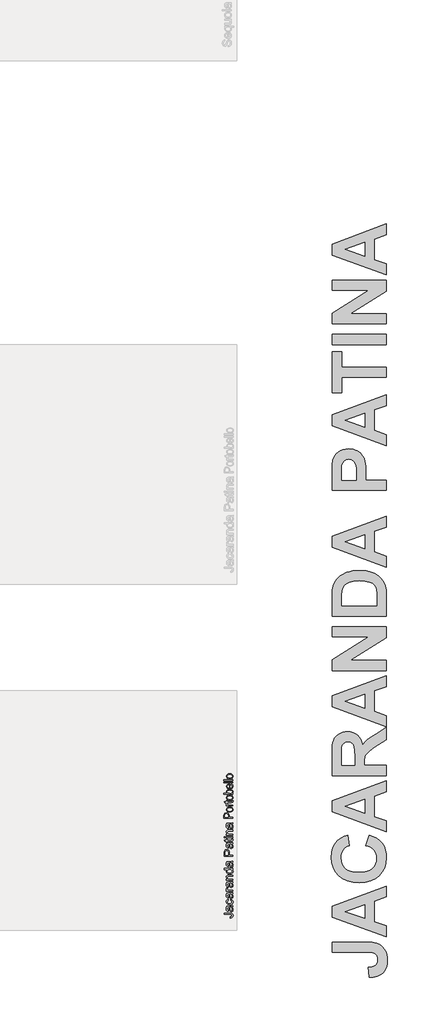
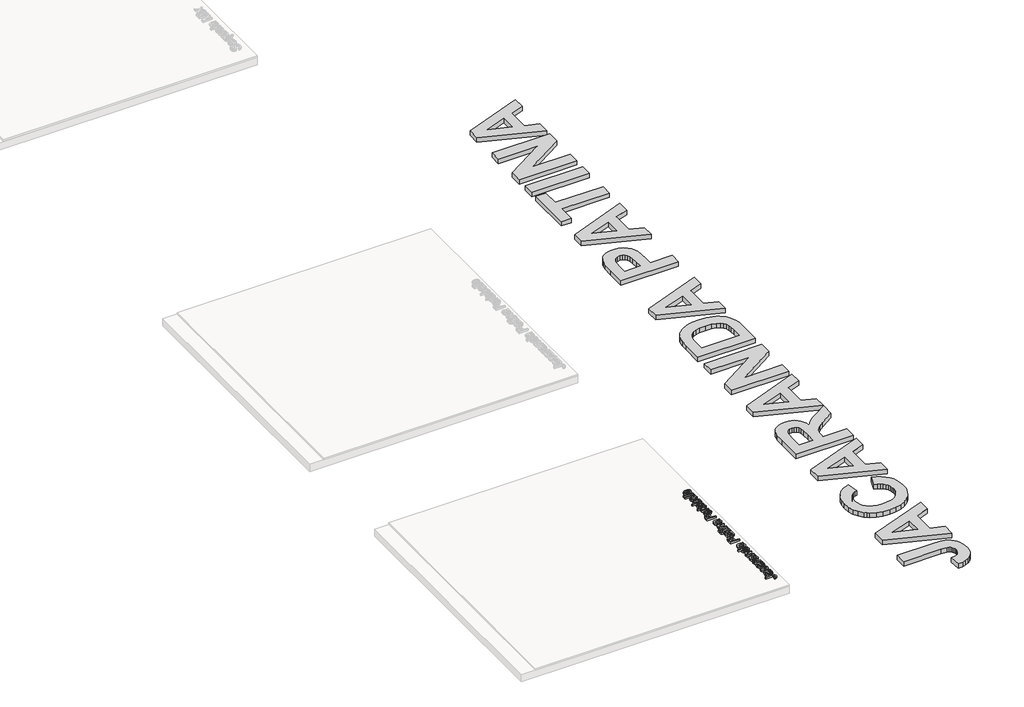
# One storey, part 7 of 10: 3 proxies.
"""IFC4 building model written with IfcOpenShell, lengths in millimetres."""

import ifcopenshell
import ifcopenshell.guid

model = None  # the IFC model being written
_history = None  # IfcOwnerHistory: only IFC2X3 demands one
_inside = {}  # id of a spatial element -> (the spatial element, [elements in it])
_under = {}  # id of a project, library or spatial element -> (it, [spatial elements below it])
_declared = {}  # id of a project -> (the project, [libraries it declares])
_typed = {}  # id of a type object -> (the type object, [elements of that type])
_made_of = {}  # id of a material, layer set ... -> (it, [elements and type objects made of it])


def new_model(schema):
    """Start an empty IFC model of exactly this schema.

    Asked for "IFC4X3", IfcOpenShell would pick the latest addendum, in which some entities
    have other attributes; the version numbers below select the first issue.
    IFC2X3 requires an IfcOwnerHistory on every rooted entity: one is made here for all.
    """
    global model, _history
    if schema == "IFC4X3":
        model = ifcopenshell.file(schema_version=(4, 3, 0, 0))
    else:
        model = ifcopenshell.file(schema=schema)
    _inside.clear()
    _under.clear()
    _declared.clear()
    _typed.clear()
    _made_of.clear()
    _history = None
    if model.schema == "IFC2X3":
        org = make("IfcOrganization", Name="unknown")
        user = make(
            "IfcPersonAndOrganization",
            ThePerson=make("IfcPerson", FamilyName="unknown"),
            TheOrganization=org,
        )
        app = make(
            "IfcApplication",
            ApplicationDeveloper=org,
            Version="unknown",
            ApplicationFullName="unknown",
            ApplicationIdentifier="unknown",
        )
        _history = make(
            "IfcOwnerHistory",
            OwningUser=user,
            OwningApplication=app,
            ChangeAction="ADDED",
            CreationDate=0,
        )
    return model


def make(cls, **values):
    """One entity of the class cls with the attributes given. An attribute that is None is left unset."""
    return model.create_entity(
        cls, **{name: value for name, value in values.items() if value is not None}
    )


def rooted(cls, **values):
    """An entity with a GlobalId (a new one), such as an element, a storey or a relation."""
    return make(cls, GlobalId=ifcopenshell.guid.new(), OwnerHistory=_history, **values)


def si_unit(unit_type, name, prefix=None):
    """IfcSIUnit, for example si_unit("LENGTHUNIT", "METRE", prefix="MILLI")."""
    return make("IfcSIUnit", UnitType=unit_type, Prefix=prefix, Name=name)


def assignment(units):
    """IfcUnitAssignment: the units of a project."""
    return None if units is None else make("IfcUnitAssignment", Units=units)


def point(xyz):
    """IfcCartesianPoint."""
    return None if xyz is None else make("IfcCartesianPoint", Coordinates=xyz)


def direction(xyz):
    """IfcDirection."""
    return None if xyz is None else make("IfcDirection", DirectionRatios=xyz)


def frame(location, z_axis=None, x_axis=None):
    """IfcAxis2Placement3D, a coordinate frame: its origin and axes. An axis left out is left unset."""
    return make(
        "IfcAxis2Placement3D",
        Location=point(location),
        Axis=direction(z_axis),
        RefDirection=direction(x_axis),
    )


def origin():
    """The frame at (0, 0, 0) with its axes left unset."""
    return frame((0.0, 0.0, 0.0))


def origin_with_axes():
    """The frame at (0, 0, 0) with the z axis (0, 0, 1) and the x axis (1, 0, 0) written out."""
    return frame((0.0, 0.0, 0.0), z_axis=(0.0, 0.0, 1.0), x_axis=(1.0, 0.0, 0.0))


def place(relative_to, where):
    """IfcLocalPlacement: puts the frame where relative to a parent placement (None: the world)."""
    return make(
        "IfcLocalPlacement", PlacementRelTo=relative_to, RelativePlacement=where
    )


def context(
    kind, dimensions, precision=None, world=None, true_north=None, identifier=None
):
    """IfcGeometricRepresentationContext, for example the 3D "Model" context."""
    return make(
        "IfcGeometricRepresentationContext",
        ContextIdentifier=identifier,
        ContextType=kind,
        CoordinateSpaceDimension=dimensions,
        Precision=precision,
        WorldCoordinateSystem=world,
        TrueNorth=true_north,
    )


def project(units=None, contexts=None):
    """IfcProject with its units and contexts."""
    return rooted(
        "IfcProject",
        Name="project",
        RepresentationContexts=contexts,
        UnitsInContext=assignment(units),
    )


def spatial(cls, under=None, at=None, **own):
    """A site, building, storey or space (cls), placed at a placement, below another one or the project."""
    s = rooted(cls, ObjectPlacement=at, **own)
    if under is not None:
        _under.setdefault(under.id(), (under, []))[1].append(s)
    return s


def polyline(points):
    """IfcPolyline through the points."""
    return make("IfcPolyline", Points=[point(p) for p in points])


def outline(outer, holes=None, kind="AREA"):
    """IfcArbitraryClosedProfileDef: a profile drawn as a closed curve; with holes, ...WithVoids."""
    if holes is None:
        return make("IfcArbitraryClosedProfileDef", ProfileType=kind, OuterCurve=outer)
    return make(
        "IfcArbitraryProfileDefWithVoids",
        ProfileType=kind,
        OuterCurve=outer,
        InnerCurves=holes,
    )


def extrude(swept, where, along, depth):
    """IfcExtrudedAreaSolid: the profile swept, set in the frame where, extruded along a direction by depth."""
    return make(
        "IfcExtrudedAreaSolid",
        SweptArea=swept,
        Position=where,
        ExtrudedDirection=direction(along),
        Depth=depth,
    )


def shape(context_of_items, identifier, shape_type, items):
    """IfcShapeRepresentation: the items that make up one representation, for example the "Body"."""
    return make(
        "IfcShapeRepresentation",
        ContextOfItems=context_of_items,
        RepresentationIdentifier=identifier,
        RepresentationType=shape_type,
        Items=items,
    )


def made_of(thing, what):
    """Note that an element or type object is made of a material, layer set ...; save() writes the relation."""
    if what is not None:
        _made_of.setdefault(what.id(), (what, []))[1].append(thing)
    return thing


def element(
    cls,
    number,
    at=None,
    inside=None,
    cuts=None,
    type_object=None,
    material=None,
    context=None,
    identifier="Body",
    shape_type=None,
    held_by="IfcProductDefinitionShape",
    body=None,
    shapes=None,
    **own,
):
    """One element of the class cls, such as IfcWall. Its Tag is "e" and its number.

    at: its placement. inside: the storey or other place that contains it. cuts: it is an
    opening in that element (IfcRelVoidsElement). A single representation is given by context,
    identifier, shape_type and body (its items); several are given by shapes. held_by: the class
    of the entity that holds the representations. save() writes the other relations.
    """
    e = rooted(cls, Tag="e%d" % number, ObjectPlacement=at, **own)
    if body is not None:
        shapes = [shape(context, identifier, shape_type, body)]
    if shapes is not None:
        e.Representation = make(held_by, Representations=shapes)
    if inside is not None:
        _inside.setdefault(inside.id(), (inside, []))[1].append(e)
    if cuts is not None:
        rooted(
            "IfcRelVoidsElement", RelatingBuildingElement=cuts, RelatedOpeningElement=e
        )
    if type_object is not None:
        _typed.setdefault(type_object.id(), (type_object, []))[1].append(e)
    return made_of(e, material)


def aggregate(whole, parts):
    """IfcRelAggregates: a whole, such as a stair, and the parts it consists of."""
    return rooted("IfcRelAggregates", RelatingObject=whole, RelatedObjects=parts)


def save(model, path):
    """Write the relations noted so far, then the file.

    IfcRelAggregates (storeys below a building ...), IfcRelContainedInSpatialStructure (elements
    in a storey), IfcRelDefinesByType, IfcRelAssociatesMaterial and IfcRelDeclares: one each for
    every whole, place, type object, material and project.
    """
    for whole, parts in _under.values():
        aggregate(whole, parts)
    for where, things in _inside.values():
        rooted(
            "IfcRelContainedInSpatialStructure",
            RelatedElements=things,
            RelatingStructure=where,
        )
    for kind, things in _typed.values():
        rooted("IfcRelDefinesByType", RelatedObjects=things, RelatingType=kind)
    for what, things in _made_of.values():
        rooted("IfcRelAssociatesMaterial", RelatedObjects=things, RelatingMaterial=what)
    for by, libraries in _declared.values():
        rooted("IfcRelDeclares", RelatingContext=by, RelatedDefinitions=libraries)
    model.write(path)


model = new_model("IFC4")

# Units and contexts
model_context = context("Model", 3, world=origin())
ifc_project = project(units=[si_unit("LENGTHUNIT", "METRE", prefix="MILLI")], contexts=[model_context])

# Site, building, storey
site = spatial("IfcSite", under=ifc_project)
building = spatial("IfcBuilding", under=site)
storey = spatial("IfcBuildingStorey", under=building, Name="PORTOBELLO - SHOWROOM", Elevation=0.0)

# Proxies
placement = place(None, origin())
element("IfcBuildingElementProxy", 1, Name="10mm Arial", ObjectType="10mm Arial", at=placement, inside=storey, context=model_context, shape_type="SweptSolid", body=[
    extrude(outline(polyline([(154169.0196483, 712.2247218), (154167.4009675, 724.7817606), (154182.2388747, 729.0737172), (154186.2365257, 739.6687186), (154183.96792, 748.2648946), (154177.7875025, 753.2435643), (154165.3408284, 754.6047276), (154096.7676245, 754.6047276), (154096.7676245, 767.1617664), (154165.1200992, 767.1617664), (154184.6301076, 764.1328713), (154195.1637954, 754.5188885), (154198.7935644, 739.0801074), (154196.920432, 727.4734305), (154191.3010345, 718.9446996), (154181.984423, 713.7698262), (154169.0196483, 712.2247218)])), frame((0.0, 0.0, 17.0), z_axis=(0.0, 0.0, 1.0), x_axis=(1.0, 0.0, 0.0)), (0.0, 0.0, 1.0), 20.0),
    extrude(outline(polyline([(154187.8061555, 834.6558498), (154196.3164923, 822.4789558), (154198.7935644, 809.0267375), (154197.3036424, 798.5329036), (154192.8338761, 790.7920532), (154186.0464533, 786.0187844), (154177.6035615, 784.4276947), (154167.6707477, 786.8311904), (154160.4602606, 793.146498), (154156.3399822, 801.9388777), (154154.4515213, 812.8036593), (154150.1350392, 834.5822734), (154147.3391361, 834.6558498), (154138.0685098, 831.197759), (154134.4387408, 817.3163451), (154136.8544992, 804.6121535), (154145.4261497, 798.5543633), (154143.8565198, 785.9973246), (154131.5937867, 791.4297154), (154124.407825, 802.3680734), (154121.881702, 818.9350259), (154124.1135194, 834.1530777), (154129.7175885, 842.7492537), (154138.240188, 846.5997519), (154149.227597, 847.2128886), (154164.850319, 847.2128886), (154186.6657213, 847.8505507), (154197.2239346, 850.3521483), (154197.2239346, 837.7951095), (154187.8061555, 834.6558498)]), holes=[polyline([(154162.692078, 834.6558498), (154166.5425762, 814.3978146), (154168.5781899, 803.5943467), (154171.8891279, 798.7015161), (154176.7206447, 796.9847335), (154183.5141989, 800.7248671), (154186.2365257, 811.7000133), (154183.2321561, 824.4042049), (154175.9603553, 832.5957106), (154166.2482706, 834.5822734), (154162.692078, 834.6558498)])]), frame((0.0, 0.0, 17.0), z_axis=(0.0, 0.0, 1.0), x_axis=(1.0, 0.0, 0.0)), (0.0, 0.0, 1.0), 20.0),
    extrude(outline(polyline([(154170.5402272, 911.5677123), (154172.1098571, 924.124751), (154183.2781413, 920.6237407), (154191.7179674, 914.0447844), (154197.0246652, 905.00715), (154198.7935644, 894.1301057), (154196.3256894, 880.7729236), (154188.9220642, 870.3281406), (154176.9076514, 863.586703), (154160.6074134, 861.3395572), (154139.7485042, 865.1777927), (154126.3453369, 876.8764401), (154121.881702, 893.9584274), (154123.4145436, 904.5687573), (154128.0130686, 913.051503), (154135.4320221, 919.1368843), (154145.4261497, 922.5551212), (154146.9957795, 909.9980824), (154137.5902632, 904.1732842), (154134.4387408, 894.0565293), (154135.9899765, 885.9416656), (154140.6436837, 879.500665), (154148.6512485, 875.2976132), (154160.2640568, 873.8965959), (154172.033215, 875.2669564), (154180.0683709, 879.3780377), (154184.694487, 885.7025423), (154186.2365257, 893.7131728), (154182.3860275, 905.5467103), (154170.5402272, 911.5677123)])), frame((0.0, 0.0, 17.0), z_axis=(0.0, 0.0, 1.0), x_axis=(1.0, 0.0, 0.0)), (0.0, 0.0, 1.0), 20.0),
    extrude(outline(polyline([(154187.8061555, 982.2010553), (154196.3164923, 970.0241613), (154198.7935644, 956.571943), (154197.3036424, 946.0781091), (154192.8338761, 938.3372588), (154186.0464533, 933.5639899), (154177.6035615, 931.9729003), (154167.6707477, 934.376396), (154160.4602606, 940.6917035), (154156.3399822, 949.4840832), (154154.4515213, 960.3488648), (154150.1350392, 982.1274789), (154147.3391361, 982.2010553), (154138.0685098, 978.7429646), (154134.4387408, 964.8615506), (154136.8544992, 952.1573591), (154145.4261497, 946.0995689), (154143.8565198, 933.5425301), (154131.5937867, 938.9749209), (154124.407825, 949.9132789), (154121.881702, 966.4802314), (154124.1135194, 981.6982833), (154129.7175885, 990.2944592), (154138.240188, 994.1449574), (154149.227597, 994.7580941), (154164.850319, 994.7580941), (154186.6657213, 995.3957562), (154197.2239346, 997.8973538), (154197.2239346, 985.340315), (154187.8061555, 982.2010553)]), holes=[polyline([(154162.692078, 982.2010553), (154166.5425762, 961.9430201), (154168.5781899, 951.1395522), (154171.8891279, 946.2467217), (154176.7206447, 944.529939), (154183.5141989, 948.2700726), (154186.2365257, 959.2452188), (154183.2321561, 971.9494104), (154175.9603553, 980.1409162), (154166.2482706, 982.1274789), (154162.692078, 982.2010553)])]), frame((0.0, 0.0, 17.0), z_axis=(0.0, 0.0, 1.0), x_axis=(1.0, 0.0, 0.0)), (0.0, 0.0, 1.0), 20.0),
    extrude(outline(polyline([(154197.2239346, 1012.0240224), (154123.4513318, 1012.0240224), (154123.4513318, 1023.0114313), (154134.3651644, 1023.0114313), (154124.3097232, 1030.8105296), (154121.881702, 1038.6586789), (154125.7567257, 1051.2647686), (154137.0139147, 1047.0709138), (154134.4387408, 1038.2417459), (154136.9158129, 1031.1416234), (154143.7829434, 1026.6166749), (154158.4491723, 1024.5810612), (154197.2239346, 1024.5810612), (154197.2239346, 1012.0240224)])), frame((0.0, 0.0, 17.0), z_axis=(0.0, 0.0, 1.0), x_axis=(1.0, 0.0, 0.0)), (0.0, 0.0, 1.0), 20.0),
    extrude(outline(polyline([(154187.8061555, 1106.2018132), (154196.3164923, 1094.0249191), (154198.7935644, 1080.5727008), (154197.3036424, 1070.0788669), (154192.8338761, 1062.3380166), (154186.0464533, 1057.5647477), (154177.6035615, 1055.9736581), (154167.6707477, 1058.3771538), (154160.4602606, 1064.6924614), (154156.3399822, 1073.4848411), (154154.4515213, 1084.3496227), (154150.1350392, 1106.1282368), (154147.3391361, 1106.2018132), (154138.0685098, 1102.7437224), (154134.4387408, 1088.8623085), (154136.8544992, 1076.1581169), (154145.4261497, 1070.1003267), (154143.8565198, 1057.5432879), (154131.5937867, 1062.9756787), (154124.407825, 1073.9140367), (154121.881702, 1090.4809892), (154124.1135194, 1105.6990411), (154129.7175885, 1114.2952171), (154138.240188, 1118.1457153), (154149.227597, 1118.7588519), (154164.850319, 1118.7588519), (154186.6657213, 1119.3965141), (154197.2239346, 1121.8981116), (154197.2239346, 1109.3410729), (154187.8061555, 1106.2018132)]), holes=[polyline([(154162.692078, 1106.2018132), (154166.5425762, 1085.943778), (154168.5781899, 1075.14031), (154171.8891279, 1070.2474795), (154176.7206447, 1068.5306969), (154183.5141989, 1072.2708305), (154186.2365257, 1083.2459767), (154183.2321561, 1095.9501682), (154175.9603553, 1104.141674), (154166.2482706, 1106.1282368), (154162.692078, 1106.2018132)])]), frame((0.0, 0.0, 17.0), z_axis=(0.0, 0.0, 1.0), x_axis=(1.0, 0.0, 0.0)), (0.0, 0.0, 1.0), 20.0),
    extrude(outline(polyline([(154197.2239346, 1136.0247802), (154123.4513318, 1136.0247802), (154123.4513318, 1148.581819), (154133.7520277, 1148.581819), (154124.8492834, 1158.1835391), (154121.881702, 1171.2924008), (154124.272935, 1183.1504638), (154130.5514543, 1191.2438677), (154139.7852924, 1195.0085268), (154151.9253983, 1195.6707144), (154197.2239346, 1195.6707144), (154197.2239346, 1183.1136756), (154153.6176554, 1183.1136756), (154142.5076192, 1181.6666731), (154136.63377, 1176.5531134), (154134.4387408, 1167.932412), (154139.3683595, 1154.3085154), (154146.5114016, 1150.0134931), (154158.0812903, 1148.581819), (154197.2239346, 1148.581819), (154197.2239346, 1136.0247802)])), frame((0.0, 0.0, 17.0), z_axis=(0.0, 0.0, 1.0), x_axis=(1.0, 0.0, 0.0)), (0.0, 0.0, 1.0), 20.0),
    extrude(outline(polyline([(154197.2239346, 1258.4559082), (154185.3781344, 1258.4559082), (154195.4397069, 1250.1479065), (154198.7935644, 1238.6638569), (154193.9375221, 1223.1147112), (154180.387202, 1212.1273023), (154160.4112096, 1208.2277532), (154140.4229545, 1211.820734), (154126.6641679, 1222.5874137), (154121.881702, 1238.614806), (154125.3030045, 1250.1908261), (154134.1934861, 1258.4559082), (154096.7676245, 1258.4559082), (154096.7676245, 1271.012947), (154197.2239346, 1271.012947), (154197.2239346, 1258.4559082)]), holes=[polyline([(154160.3621587, 1220.7847919), (154171.7205153, 1222.2011376), (154179.7985908, 1226.4501747), (154184.627042, 1232.6244608), (154186.2365257, 1239.8165538), (154184.7006184, 1247.0055811), (154180.0928964, 1253.0235174), (154172.3275206, 1257.0978105), (154161.3186519, 1258.4559082), (154149.2827793, 1257.0732851), (154140.9379893, 1252.9254156), (154136.0635529, 1246.7541951), (154134.4387408, 1239.301519), (154135.9991736, 1232.0358496), (154140.6804719, 1226.0822927), (154148.7217592, 1222.1091671), (154160.3621587, 1220.7847919)])]), frame((0.0, 0.0, 17.0), z_axis=(0.0, 0.0, 1.0), x_axis=(1.0, 0.0, 0.0)), (0.0, 0.0, 1.0), 20.0),
    extrude(outline(polyline([(154187.8061555, 1336.9374005), (154196.3164923, 1324.7605065), (154198.7935644, 1311.3082882), (154197.3036424, 1300.8144543), (154192.8338761, 1293.073604), (154186.0464533, 1288.3003351), (154177.6035615, 1286.7092455), (154167.6707477, 1289.1127412), (154160.4602606, 1295.4280488), (154156.3399822, 1304.2204284), (154154.4515213, 1315.08521), (154150.1350392, 1336.8638241), (154147.3391361, 1336.9374005), (154138.0685098, 1333.4793098), (154134.4387408, 1319.5978958), (154136.8544992, 1306.8937043), (154145.4261497, 1300.8359141), (154143.8565198, 1288.2788753), (154131.5937867, 1293.7112661), (154124.407825, 1304.6496241), (154121.881702, 1321.2165766), (154124.1135194, 1336.4346285), (154129.7175885, 1345.0308044), (154138.240188, 1348.8813027), (154149.227597, 1349.4944393), (154164.850319, 1349.4944393), (154186.6657213, 1350.1321014), (154197.2239346, 1352.633699), (154197.2239346, 1340.0766602), (154187.8061555, 1336.9374005)]), holes=[polyline([(154162.692078, 1336.9374005), (154166.5425762, 1316.6793653), (154168.5781899, 1305.8758974), (154171.8891279, 1300.9830669), (154176.7206447, 1299.2662842), (154183.5141989, 1303.0064179), (154186.2365257, 1313.981564), (154183.2321561, 1326.6857556), (154175.9603553, 1334.8772614), (154166.2482706, 1336.8638241), (154162.692078, 1336.9374005)])]), frame((0.0, 0.0, 17.0), z_axis=(0.0, 0.0, 1.0), x_axis=(1.0, 0.0, 0.0)), (0.0, 0.0, 1.0), 20.0),
    extrude(outline(polyline([(154197.2239346, 1407.5707436), (154096.7676245, 1407.5707436), (154096.7676245, 1444.8004015), (154097.7241176, 1459.8099869), (154102.4207444, 1472.0114064), (154112.1328291, 1479.9208693), (154125.8303021, 1482.9129762), (154137.669971, 1480.8926909), (154147.5353398, 1474.8318351), (154154.1940039, 1463.4980039), (154156.4135586, 1445.6587929), (154156.4135586, 1420.1277824), (154197.2239346, 1420.1277824), (154197.2239346, 1407.5707436)]), holes=[polyline([(154143.8565198, 1420.1277824), (154143.8565198, 1446.3945568), (154139.2457322, 1464.8867585), (154133.6968454, 1468.9886427), (154126.2717605, 1470.3559375), (154115.8729627, 1467.1308386), (154110.1830545, 1458.65729), (154109.3246632, 1446.1002512), (154109.3246632, 1420.1277824), (154143.8565198, 1420.1277824)])]), frame((0.0, 0.0, 17.0), z_axis=(0.0, 0.0, 1.0), x_axis=(1.0, 0.0, 0.0)), (0.0, 0.0, 1.0), 20.0),
    extrude(outline(polyline([(154187.8061555, 1545.6981701), (154196.3164923, 1533.521276), (154198.7935644, 1520.0690577), (154197.3036424, 1509.5752238), (154192.8338761, 1501.8343735), (154186.0464533, 1497.0611046), (154177.6035615, 1495.470015), (154167.6707477, 1497.8735107), (154160.4602606, 1504.1888183), (154156.3399822, 1512.981198), (154154.4515213, 1523.8459796), (154150.1350392, 1545.6245937), (154147.3391361, 1545.6981701), (154138.0685098, 1542.2400793), (154134.4387408, 1528.3586654), (154136.8544992, 1515.6544738), (154145.4261497, 1509.5966836), (154143.8565198, 1497.0396448), (154131.5937867, 1502.4720356), (154124.407825, 1513.4103936), (154121.881702, 1529.9773461), (154124.1135194, 1545.195398), (154129.7175885, 1553.791574), (154138.240188, 1557.6420722), (154149.227597, 1558.2552088), (154164.850319, 1558.2552088), (154186.6657213, 1558.892871), (154197.2239346, 1561.3944685), (154197.2239346, 1548.8374298), (154187.8061555, 1545.6981701)]), holes=[polyline([(154162.692078, 1545.6981701), (154166.5425762, 1525.4401349), (154168.5781899, 1514.6366669), (154171.8891279, 1509.7438364), (154176.7206447, 1508.0270538), (154183.5141989, 1511.7671874), (154186.2365257, 1522.7423336), (154183.2321561, 1535.4465251), (154175.9603553, 1543.6380309), (154166.2482706, 1545.6245937), (154162.692078, 1545.6981701)])]), frame((0.0, 0.0, 17.0), z_axis=(0.0, 0.0, 1.0), x_axis=(1.0, 0.0, 0.0)), (0.0, 0.0, 1.0), 20.0),
    extrude(outline(polyline([(154186.7515605, 1602.2048445), (154197.5918166, 1603.7744744), (154198.7935644, 1594.3812208), (154196.7088998, 1583.8597957), (154191.2397208, 1578.6113459), (154176.9904249, 1577.090767), (154136.0083706, 1577.090767), (154136.0083706, 1567.6729879), (154123.4513318, 1567.6729879), (154123.4513318, 1577.090767), (154105.5232159, 1577.090767), (154098.1410506, 1589.6478058), (154123.4513318, 1589.6478058), (154123.4513318, 1602.2048445), (154136.0083706, 1602.2048445), (154136.0083706, 1589.6478058), (154176.6225429, 1589.6478058), (154183.097266, 1590.3099934), (154185.3903971, 1592.4559717), (154186.2365257, 1596.7356655), (154186.7515605, 1602.2048445)])), frame((0.0, 0.0, 17.0), z_axis=(0.0, 0.0, 1.0), x_axis=(1.0, 0.0, 0.0)), (0.0, 0.0, 1.0), 20.0),
    extrude(outline(polyline([(154109.3246632, 1614.7618833), (154096.7676245, 1614.7618833), (154096.7676245, 1627.3189221), (154109.3246632, 1627.3189221), (154109.3246632, 1614.7618833)])), frame((0.0, 0.0, 17.0), z_axis=(0.0, 0.0, 1.0), x_axis=(1.0, 0.0, 0.0)), (0.0, 0.0, 1.0), 20.0),
    extrude(outline(polyline([(154197.2239346, 1614.7618833), (154123.4513318, 1614.7618833), (154123.4513318, 1627.3189221), (154197.2239346, 1627.3189221), (154197.2239346, 1614.7618833)])), frame((0.0, 0.0, 17.0), z_axis=(0.0, 0.0, 1.0), x_axis=(1.0, 0.0, 0.0)), (0.0, 0.0, 1.0), 20.0),
    extrude(outline(polyline([(154197.2239346, 1646.1544802), (154123.4513318, 1646.1544802), (154123.4513318, 1658.711519), (154133.7520277, 1658.711519), (154124.8492834, 1668.3132391), (154121.881702, 1681.4221008), (154124.272935, 1693.2801638), (154130.5514543, 1701.3735677), (154139.7852924, 1705.1382268), (154151.9253983, 1705.8004144), (154197.2239346, 1705.8004144), (154197.2239346, 1693.2433756), (154153.6176554, 1693.2433756), (154142.5076192, 1691.7963731), (154136.63377, 1686.6828134), (154134.4387408, 1678.0621119), (154139.3683595, 1664.4382154), (154146.5114016, 1660.1431931), (154158.0812903, 1658.711519), (154197.2239346, 1658.711519), (154197.2239346, 1646.1544802)])), frame((0.0, 0.0, 17.0), z_axis=(0.0, 0.0, 1.0), x_axis=(1.0, 0.0, 0.0)), (0.0, 0.0, 1.0), 20.0),
    extrude(outline(polyline([(154187.8061555, 1770.1552381), (154196.3164923, 1757.978344), (154198.7935644, 1744.5261257), (154197.3036424, 1734.0322918), (154192.8338761, 1726.2914415), (154186.0464533, 1721.5181726), (154177.6035615, 1719.927083), (154167.6707477, 1722.3305787), (154160.4602606, 1728.6458863), (154156.3399822, 1737.438266), (154154.4515213, 1748.3030476), (154150.1350392, 1770.0816617), (154147.3391361, 1770.1552381), (154138.0685098, 1766.6971473), (154134.4387408, 1752.8157334), (154136.8544992, 1740.1115418), (154145.4261497, 1734.0537516), (154143.8565198, 1721.4967128), (154131.5937867, 1726.9291036), (154124.407825, 1737.8674616), (154121.881702, 1754.4344141), (154124.1135194, 1769.652466), (154129.7175885, 1778.248642), (154138.240188, 1782.0991402), (154149.227597, 1782.7122768), (154164.850319, 1782.7122768), (154186.6657213, 1783.349939), (154197.2239346, 1785.8515365), (154197.2239346, 1773.2944978), (154187.8061555, 1770.1552381)]), holes=[polyline([(154162.692078, 1770.1552381), (154166.5425762, 1749.8972029), (154168.5781899, 1739.0937349), (154171.8891279, 1734.2009044), (154176.7206447, 1732.4841218), (154183.5141989, 1736.2242554), (154186.2365257, 1747.1994016), (154183.2321561, 1759.9035931), (154175.9603553, 1768.0950989), (154166.2482706, 1770.0816617), (154162.692078, 1770.1552381)])]), frame((0.0, 0.0, 17.0), z_axis=(0.0, 0.0, 1.0), x_axis=(1.0, 0.0, 0.0)), (0.0, 0.0, 1.0), 20.0),
])
element("IfcBuildingElementProxy", 2, Name="10mm Arial Narrow", ObjectType="10mm Arial Narrow", at=placement, inside=storey, context=model_context, shape_type="SweptSolid", body=[
    extrude(outline(polyline([(154197.2239346, 1835.8171408), (154096.5053309, 1835.8171408), (154096.5053309, 1867.1140255), (154098.3836516, 1883.409727), (154107.8640948, 1894.8827131), (154124.8832036, 1899.1723916), (154136.9590291, 1897.3860832), (154146.5854229, 1892.027158), (154152.8866813, 1882.2833691), (154154.9871008, 1867.3424699), (154154.9871008, 1845.5641025), (154197.2239346, 1845.5641025), (154197.2239346, 1835.8171408)]), holes=[polyline([(154143.6156455, 1845.5641025), (154143.6156455, 1868.5354574), (154139.0848313, 1884.3996528), (154125.4162405, 1889.4254299), (154115.2504641, 1886.9506154), (154109.4505143, 1880.9729866), (154107.8767861, 1868.307013), (154107.8767861, 1845.5641025), (154143.6156455, 1845.5641025)])]), frame((0.0, 0.0, 17.0), z_axis=(0.0, 0.0, 1.0), x_axis=(1.0, 0.0, 0.0)), (0.0, 0.0, 1.0), 20.0),
    extrude(outline(polyline([(154160.6728284, 1907.2948596), (154144.0820529, 1909.2493285), (154132.129968, 1915.1127351), (154124.9054135, 1923.9713018), (154122.4972286, 1934.911251), (154124.9054135, 1945.7242865), (154132.129968, 1954.608236), (154143.8916825, 1960.5477907), (154159.911347, 1962.5276423), (154177.0732336, 1960.582692), (154189.2156888, 1954.7478409), (154196.4402434, 1945.8987927), (154198.8484282, 1934.911251), (154196.4338977, 1924.0506228), (154189.1903061, 1915.1761919), (154177.2318756, 1909.2651927), (154160.6728284, 1907.2948596)]), holes=[polyline([(154160.6474457, 1917.0418213), (154173.1991971, 1918.3458581), (154182.0704552, 1922.2579687), (154187.3437137, 1928.0991655), (154189.1014666, 1935.1904608), (154187.3278495, 1941.910534), (154182.0069984, 1947.6026073), (154173.1198761, 1951.4861623), (154160.6474457, 1952.7806807), (154148.1337684, 1951.4766438), (154139.2752016, 1947.5645332), (154134.0019431, 1941.7233365), (154132.2441902, 1934.6320411), (154134.0114616, 1927.8643754), (154139.3132757, 1922.1818206), (154148.1813609, 1918.3268211), (154160.6474457, 1917.0418213)])]), frame((0.0, 0.0, 17.0), z_axis=(0.0, 0.0, 1.0), x_axis=(1.0, 0.0, 0.0)), (0.0, 0.0, 1.0), 20.0),
    extrude(outline(polyline([(154189.1014666, 2034.0053611), (154198.8484282, 2035.6298547), (154198.8484282, 2028.268868), (154196.7289717, 2019.9941037), (154190.9290219, 2015.6790426), (154176.2831967, 2014.5114378), (154133.8686839, 2014.5114378), (154133.8686839, 2006.3889697), (154130.6196966, 2006.3889697), (154135.4931775, 2004.7644761), (154133.8686839, 1997.2004278), (154136.1912021, 1991.1212681), (154142.6764851, 1987.2504044), (154158.0837917, 1985.2705528), (154197.2239346, 1985.2705528), (154197.2239346, 1975.5235912), (154124.1217222, 1975.5235912), (154124.1217222, 1985.2705528), (154133.8179184, 1985.2705528), (154124.7309073, 1991.5147001), (154122.4972286, 1997.9111437), (154124.1217222, 2006.3889697), (154124.1217222, 2014.5114378), (154107.8767861, 2014.5114378), (154099.7543181, 2024.2583994), (154124.1217222, 2024.2583994), (154124.1217222, 2034.0053611), (154133.8686839, 2034.0053611), (154133.8686839, 2024.2583994), (154178.5168754, 2024.2583994), (154186.5124299, 2025.1214117), (154189.1014666, 2029.7410654), (154189.1014666, 2034.0053611)])), frame((0.0, 0.0, 17.0), z_axis=(0.0, 0.0, 1.0), x_axis=(1.0, 0.0, 0.0)), (0.0, 0.0, 1.0), 20.0),
    extrude(outline(polyline([(154160.6728284, 2040.5033355), (154144.0820529, 2042.4578044), (154132.129968, 2048.321211), (154124.9054135, 2057.1797777), (154122.4972286, 2068.1197269), (154124.9054135, 2078.9327625), (154132.129968, 2087.8167119), (154143.8916825, 2093.7562667), (154159.911347, 2095.7361182), (154177.0732336, 2093.7911679), (154189.2156888, 2087.9563168), (154196.4402434, 2079.1072686), (154198.8484282, 2068.1197269), (154196.4338977, 2057.2590987), (154189.1903061, 2048.3846678), (154177.2318756, 2042.4736686), (154160.6728284, 2040.5033355)]), holes=[polyline([(154160.6474457, 2050.2502972), (154173.1991971, 2051.5543341), (154182.0704552, 2055.4664446), (154187.3437137, 2061.3076414), (154189.1014666, 2068.3989367), (154187.3278495, 2075.1190099), (154182.0069984, 2080.8110832), (154173.1198761, 2084.6946382), (154160.6474457, 2085.9891566), (154148.1337684, 2084.6851197), (154139.2752016, 2080.7730091), (154134.0019431, 2074.9318124), (154132.2441902, 2067.840517), (154134.0114616, 2061.0728513), (154139.3132757, 2055.3902965), (154148.1813609, 2051.535297), (154160.6474457, 2050.2502972)])]), frame((0.0, 0.0, 17.0), z_axis=(0.0, 0.0, 1.0), x_axis=(1.0, 0.0, 0.0)), (0.0, 0.0, 1.0), 20.0),
    extrude(outline(polyline([(154197.2239346, 2118.4790288), (154197.2239346, 2108.7320671), (154096.5053309, 2108.7320671), (154096.5053309, 2118.4790288), (154131.914215, 2118.4790288), (154124.8324382, 2125.8780895), (154122.4972286, 2135.0793228), (154126.6980675, 2147.9610495), (154139.4274979, 2157.238431), (154160.1144087, 2160.7158626), (154176.5687522, 2158.7836036), (154188.7714913, 2152.9868266), (154196.329194, 2144.6137043), (154198.8484282, 2134.9524093), (154196.2340088, 2125.611571), (154188.4668987, 2118.4790288), (154197.2239346, 2118.4790288)]), holes=[polyline([(154160.1144087, 2118.4790288), (154177.361962, 2120.5604112), (154186.0936151, 2126.4492005), (154189.1014666, 2134.9016438), (154187.3119853, 2140.8443714), (154181.9435416, 2146.0827288), (154160.5205321, 2150.9689009), (154139.0848313, 2146.2604077), (154133.9543505, 2141.0157047), (154132.2441902, 2134.6985821), (154134.0336715, 2128.7209533), (154139.4021152, 2123.4286577), (154160.1144087, 2118.4790288)])]), frame((0.0, 0.0, 17.0), z_axis=(0.0, 0.0, 1.0), x_axis=(1.0, 0.0, 0.0)), (0.0, 0.0, 1.0), 20.0),
    extrude(outline(polyline([(154174.4810241, 2212.6996581), (154176.1055177, 2222.4466197), (154185.9920843, 2218.7470894), (154193.1119352, 2212.9281025), (154197.4143049, 2205.2244492), (154198.8484282, 2195.8709196), (154196.4338977, 2184.2773656), (154189.1903061, 2175.1332434), (154177.3841718, 2169.1936886), (154161.2820135, 2167.213837), (154144.6150898, 2169.2032071), (154132.4345606, 2175.1713174), (154124.9815616, 2184.1853533), (154122.4972286, 2195.3124999), (154124.8958949, 2205.9954491), (154132.091894, 2214.7429664), (154143.8313986, 2220.5778175), (154159.8605816, 2222.5227679), (154163.1095688, 2222.4466197), (154163.1095688, 2176.9607987), (154182.5527267, 2182.9638102), (154187.4642816, 2188.8938465), (154189.1014666, 2195.9978332), (154185.4463559, 2206.1763009), (154174.4810241, 2212.6996581)]), holes=[polyline([(154153.3626072, 2177.6207492), (154153.3626072, 2212.6996581), (154139.0975227, 2208.4353624), (154133.9575233, 2202.6100298), (154132.2441902, 2195.3886481), (154137.9553006, 2183.1795633), (154153.3626072, 2177.6207492)])]), frame((0.0, 0.0, 17.0), z_axis=(0.0, 0.0, 1.0), x_axis=(1.0, 0.0, 0.0)), (0.0, 0.0, 1.0), 20.0),
    extrude(outline(polyline([(154197.2239346, 2235.4425686), (154096.5053309, 2235.4425686), (154096.5053309, 2245.1895303), (154197.2239346, 2245.1895303), (154197.2239346, 2235.4425686)])), frame((0.0, 0.0, 17.0), z_axis=(0.0, 0.0, 1.0), x_axis=(1.0, 0.0, 0.0)), (0.0, 0.0, 1.0), 20.0),
    extrude(outline(polyline([(154197.2239346, 2261.4344663), (154096.5053309, 2261.4344663), (154096.5053309, 2271.181428), (154197.2239346, 2271.181428), (154197.2239346, 2261.4344663)])), frame((0.0, 0.0, 17.0), z_axis=(0.0, 0.0, 1.0), x_axis=(1.0, 0.0, 0.0)), (0.0, 0.0, 1.0), 20.0),
    extrude(outline(polyline([(154160.6728284, 2282.5528833), (154144.0820529, 2284.5073521), (154132.129968, 2290.3707588), (154124.9054135, 2299.2293255), (154122.4972286, 2310.1692746), (154124.9054135, 2320.9823102), (154132.129968, 2329.8662596), (154143.8916825, 2335.8058144), (154159.911347, 2337.785666), (154177.0732336, 2335.8407156), (154189.2156888, 2330.0058645), (154196.4402434, 2321.1568164), (154198.8484282, 2310.1692746), (154196.4338977, 2299.3086464), (154189.1903061, 2290.4342155), (154177.2318756, 2284.5232163), (154160.6728284, 2282.5528833)]), holes=[polyline([(154160.6474457, 2292.2998449), (154173.1991971, 2293.6038818), (154182.0704552, 2297.5159924), (154187.3437137, 2303.3571891), (154189.1014666, 2310.4484845), (154187.3278495, 2317.1685576), (154182.0069984, 2322.8606309), (154173.1198761, 2326.744186), (154160.6474457, 2328.0387043), (154148.1337684, 2326.7346675), (154139.2752016, 2322.8225569), (154134.0019431, 2316.9813601), (154132.2441902, 2309.8900648), (154134.0114616, 2303.122399), (154139.3132757, 2297.4398442), (154148.1813609, 2293.5848447), (154160.6474457, 2292.2998449)])]), frame((0.0, 0.0, 17.0), z_axis=(0.0, 0.0, 1.0), x_axis=(1.0, 0.0, 0.0)), (0.0, 0.0, 1.0), 20.0),
])
element("IfcBuildingElementProxy", 3, Name="600mm Arial", ObjectType="600mm Arial", at=placement, inside=storey, context=model_context, shape_type="SweptSolid", body=[
    extrude(outline(polyline([(155315.3545543, 324.4007161), (155315.3545543, 441.0017904), (155702.3547344, 441.0017904), (155769.536994, 437.5857433), (155819.2594573, 427.337602), (155844.5951399, 416.3682952), (155867.3118532, 401.6792927), (155887.4095969, 383.2705944), (155904.8883712, 361.1422005), (155919.0364996, 335.2371766), (155929.1423056, 305.4985888), (155935.2057892, 271.9264371), (155937.2269504, 234.5207214), (155933.9864502, 191.0989671), (155924.2649495, 152.991064), (155908.0624483, 120.1970118), (155885.3789467, 92.7168107), (155856.423203, 70.9679775), (155821.4039758, 55.3680291), (155780.3212649, 45.9169655), (155733.1750704, 42.6147866), (155723.4583142, 159.2158609), (155768.1705751, 164.567668), (155797.5485802, 176.0683599), (155811.895978, 188.3471514), (155822.1441193, 203.4726488), (155828.2930041, 221.4448522), (155830.3426323, 242.2637614), (155828.8718343, 263.0874152), (155824.4594401, 280.6183791), (155817.1054498, 294.8566532), (155806.8098634, 305.8022375), (155791.8931244, 313.9390719), (155770.6756764, 319.7510965), (155709.3386529, 324.4007161), (155315.3545543, 324.4007161)])), origin_with_axes(), (0.0, 0.0, 1.0), 50.0),
    extrude(outline(polyline([(155927.5101942, 1072.5909428), (155927.5101942, 950.0687202), (155791.4756076, 902.0922365), (155791.4756076, 670.863804), (155927.5101942, 623.4946176), (155927.5101942, 499.3023275), (155315.3545543, 722.7877199), (155315.3545543, 846.98001), (155927.5101942, 1072.5909428)]), holes=[polyline([(155684.5912895, 864.7434549), (155461.1058971, 785.9466351), (155684.5912895, 708.2125856), (155684.5912895, 864.7434549)])]), origin_with_axes(), (0.0, 0.0, 1.0), 50.0),
    extrude(outline(polyline([(155694.3080457, 1529.2784837), (155733.1750704, 1645.879558), (155779.2774727, 1629.7766915), (155819.0506989, 1609.1001175), (155852.4947489, 1583.8498361), (155879.6096227, 1554.0258471), (155900.5661227, 1519.7515079), (155915.5350514, 1481.1501757), (155924.5164085, 1438.2218505), (155927.5101942, 1390.9665323), (155922.3956126, 1332.580594), (155907.0518677, 1279.641353), (155881.4789596, 1232.1488093), (155845.6768882, 1190.1029629), (155801.0025834, 1155.6957774), (155748.8129749, 1131.1192164), (155689.1080629, 1116.3732797), (155621.8878472, 1111.4579675), (155551.0048699, 1116.4159803), (155488.5101861, 1131.2900187), (155434.4037956, 1156.0800827), (155410.4962105, 1172.1936243), (155388.6856986, 1190.7861723), (155352.3522421, 1233.5769068), (155326.3997732, 1282.6209052), (155310.8282919, 1337.9181676), (155305.6377981, 1399.468694), (155309.917346, 1453.2904138), (155322.7559896, 1501.7982826), (155344.1537291, 1544.9923003), (155374.1105643, 1582.872467), (155396.5141399, 1602.581161), (155423.3395986, 1619.6519075), (155454.5869406, 1634.0847065), (155490.2561657, 1645.879558), (155509.6896781, 1529.2784837), (155488.3346392, 1521.9292379), (155469.3613443, 1511.4201486), (155452.7697933, 1497.7512157), (155438.5599863, 1480.9224392), (155427.1684181, 1461.5221384), (155419.0315837, 1440.1386325), (155414.149483, 1416.7719214), (155412.5221162, 1391.4220052), (155415.4779458, 1356.7728497), (155424.3454347, 1325.5492304), (155439.1245829, 1297.7511471), (155459.8153904, 1273.3786), (155487.1200447, 1253.5512933), (155521.7407331, 1239.3889313), (155563.6774557, 1230.8915142), (155612.9302126, 1228.0590418), (155665.0628869, 1230.806113), (155709.1109164, 1239.0473266), (155745.0743012, 1252.7826827), (155772.9530411, 1272.0121811), (155793.8099064, 1295.6445847), (155808.7076674, 1322.5886562), (155817.646324, 1352.8443956), (155820.6258761, 1386.4118028), (155818.7233277, 1411.4011363), (155813.0156823, 1434.597045), (155803.5029401, 1455.9995289), (155790.1851009, 1475.6085882), (155772.7774942, 1492.9972168), (155750.9954495, 1507.7384089), (155724.8389666, 1519.8321646), (155694.3080457, 1529.2784837)])), origin_with_axes(), (0.0, 0.0, 1.0), 50.0),
    extrude(outline(polyline([(155927.5101942, 2258.0351979), (155927.5101942, 2135.5129754), (155791.4756076, 2087.5364917), (155791.4756076, 1856.3080592), (155927.5101942, 1808.9388728), (155927.5101942, 1684.7465827), (155315.3545543, 1908.2319751), (155315.3545543, 2032.4242652), (155927.5101942, 2258.0351979)]), holes=[polyline([(155684.5912895, 2050.1877101), (155461.1058971, 1971.3908903), (155684.5912895, 1893.6568408), (155684.5912895, 2050.1877101)])]), origin_with_axes(), (0.0, 0.0, 1.0), 50.0),
    extrude(outline(polyline([(155927.5101942, 2316.3357351), (155315.3545543, 2316.3357351), (155315.3545543, 2573.8297741), (155319.4917669, 2657.7127084), (155324.6632826, 2689.6907049), (155331.9034046, 2715.0263875), (155341.7909632, 2735.940187), (155354.9047884, 2754.6525338), (155371.2448804, 2771.1634282), (155390.811239, 2785.4728699), (155412.7593417, 2797.0304959), (155436.2446655, 2805.2859431), (155461.2672104, 2810.2392113), (155487.8269766, 2811.8903008), (155520.9341664, 2809.5038123), (155551.0238479, 2802.3443469), (155578.0960212, 2790.4119046), (155602.1506862, 2773.7064854), (155622.6090127, 2752.2470673), (155638.8921705, 2726.0526284), (155651.0001597, 2695.1231687), (155658.9329802, 2659.458688), (155683.3007828, 2693.2775543), (155709.9459502, 2720.6438872), (155748.5472824, 2748.959122), (155808.7835795, 2785.6246942), (155927.5101942, 2860.4740817), (155927.5101942, 2724.2876707), (155787.6799997, 2635.6222705), (155733.9911261, 2592.7888355), (155704.7080113, 2566.0108219), (155690.3036794, 2546.6911777), (155681.2511545, 2526.2328512), (155676.4686886, 2499.0752768), (155674.8745333, 2459.6578889), (155674.8745333, 2432.9368094), (155927.5101942, 2432.9368094), (155927.5101942, 2316.3357351)]), holes=[polyline([(155567.9902152, 2432.9368094), (155567.9902152, 2529.0416011), (155566.2252575, 2604.8968247), (155560.9303845, 2645.7185875), (155551.3274966, 2666.4805626), (155536.6384941, 2682.1564232), (155517.2619158, 2692.0060257), (155493.5963006, 2695.2892265), (155467.3876282, 2690.9622335), (155446.7584993, 2677.9812545), (155432.2023431, 2657.1054112), (155424.2125885, 2629.093825), (155422.2388724, 2534.3554521), (155422.2388724, 2432.9368094), (155567.9902152, 2432.9368094)])]), origin_with_axes(), (0.0, 0.0, 1.0), 50.0),
    extrude(outline(polyline([(155927.5101942, 3443.4794531), (155927.5101942, 3320.9572305), (155791.4756076, 3272.9807469), (155791.4756076, 3041.7523144), (155927.5101942, 2994.383128), (155927.5101942, 2870.1908379), (155315.3545543, 3093.6762303), (155315.3545543, 3217.8685203), (155927.5101942, 3443.4794531)]), holes=[polyline([(155684.5912895, 3235.6319653), (155461.1058971, 3156.8351455), (155684.5912895, 3079.101096), (155684.5912895, 3235.6319653)])]), origin_with_axes(), (0.0, 0.0, 1.0), 50.0),
    extrude(outline(polyline([(155927.5101942, 3501.7799903), (155315.3545543, 3501.7799903), (155315.3545543, 3623.9985642), (155727.4057464, 3880.7334817), (155315.3545543, 3880.7334817), (155315.3545543, 3997.334556), (155927.5101942, 3997.334556), (155927.5101942, 3871.3203741), (155521.5319747, 3618.3810646), (155927.5101942, 3618.3810646), (155927.5101942, 3501.7799903)])), origin_with_axes(), (0.0, 0.0, 1.0), 50.0),
    extrude(outline(polyline([(155315.3545543, 4113.9356302), (155315.3545543, 4340.6093332), (155318.2771723, 4408.1711536), (155327.0450266, 4457.5140562), (155336.5482798, 4483.5709043), (155349.1164864, 4507.6919924), (155364.7496464, 4529.8773205), (155383.4477597, 4550.1268886), (155404.8170322, 4568.2556608), (155428.4636693, 4584.0786011), (155482.5890378, 4608.8069865), (155513.6418548, 4617.6080523), (155548.1202079, 4623.8945279), (155627.3535226, 4628.9237083), (155697.6481806, 4624.2171545), (155757.6187852, 4610.0974932), (155789.4259793, 4597.3252727), (155818.0448628, 4582.085907), (155843.4754356, 4564.3793962), (155865.7176978, 4544.2057403), (155893.5774597, 4506.3255736), (155914.6051274, 4457.0585832), (155924.2839275, 4409.1200556), (155927.5101942, 4347.2896031), (155927.5101942, 4113.9356302), (155315.3545543, 4113.9356302)]), holes=[polyline([(155422.2388724, 4230.5367045), (155820.6258761, 4230.5367045), (155820.6258761, 4329.8298068), (155819.1835451, 4377.8062905), (155814.8565522, 4410.296694), (155804.9689936, 4439.8834575), (155789.8814523, 4463.9665896), (155766.5194857, 4483.3431678), (155731.8086516, 4498.81027), (155684.0599044, 4508.944543), (155621.5841986, 4512.322634), (155559.9814826, 4508.944543), (155514.5480562, 4498.81027), (155481.2985311, 4482.6220023), (155456.247519, 4461.0819276), (155438.7118106, 4433.5827484), (155428.0081963, 4399.5171676), (155423.6812033, 4358.2589099), (155422.2388724, 4290.3554848), (155422.2388724, 4230.5367045)])]), origin_with_axes(), (0.0, 0.0, 1.0), 50.0),
    extrude(outline(polyline([(155927.5101942, 5241.0793483), (155927.5101942, 5118.5571257), (155791.4756076, 5070.580642), (155791.4756076, 4839.3522096), (155927.5101942, 4791.9830231), (155927.5101942, 4667.7907331), (155315.3545543, 4891.2761255), (155315.3545543, 5015.4684155), (155927.5101942, 5241.0793483)]), holes=[polyline([(155684.5912895, 5033.2318604), (155461.1058971, 4954.4350407), (155684.5912895, 4876.7009912), (155684.5912895, 5033.2318604)])]), origin_with_axes(), (0.0, 0.0, 1.0), 50.0),
    extrude(outline(polyline([(155927.5101942, 5532.582034), (155315.3545543, 5532.582034), (155315.3545543, 5729.8018198), (155317.631919, 5822.4526083), (155324.4640132, 5876.0086356), (155333.3125241, 5901.1308153), (155346.1938683, 5924.1179656), (155363.108046, 5944.9700864), (155384.055057, 5963.6871778), (155408.6838077, 5979.1305574), (155436.6432043, 5990.1615428), (155467.9332468, 5996.780134), (155502.5539352, 5998.9863311), (155554.1172684, 5993.8053264), (155576.5540555, 5987.3290704), (155596.760923, 5978.2623121), (155630.8454818, 5954.7295432), (155656.7315276, 5925.5792746), (155674.8555553, 5893.3735417), (155685.6540597, 5860.6743797), (155692.1445492, 5805.8278458), (155694.3080457, 5730.86459), (155694.3080457, 5649.1831083), (155927.5101942, 5649.1831083), (155927.5101942, 5532.582034)]), holes=[polyline([(155422.2388724, 5649.1831083), (155587.4237276, 5649.1831083), (155587.4237276, 5721.6033068), (155585.1463629, 5786.8308283), (155578.3142687, 5826.134348), (155566.6048183, 5849.6291608), (155549.6953852, 5867.4305618), (155528.6107834, 5878.6465831), (155504.375827, 5882.3852568), (155475.4153388, 5877.1283399), (155451.9964382, 5861.3575891), (155435.2198513, 5837.5781057), (155426.1863046, 5808.2949909), (155422.2388724, 5713.1011451), (155422.2388724, 5649.1831083)])]), origin_with_axes(), (0.0, 0.0, 1.0), 50.0),
    extrude(outline(polyline([(155927.5101942, 6611.1419711), (155927.5101942, 6488.6197485), (155791.4756076, 6440.6432648), (155791.4756076, 6209.4148324), (155927.5101942, 6162.0456459), (155927.5101942, 6037.8533559), (155315.3545543, 6261.3387482), (155315.3545543, 6385.5310383), (155927.5101942, 6611.1419711)]), holes=[polyline([(155684.5912895, 6403.2944832), (155461.1058971, 6324.4976635), (155684.5912895, 6246.763614), (155684.5912895, 6403.2944832)])]), origin_with_axes(), (0.0, 0.0, 1.0), 50.0),
    extrude(outline(polyline([(155927.5101942, 6805.4770949), (155422.2388724, 6805.4770949), (155422.2388724, 6630.5754835), (155315.3545543, 6630.5754835), (155315.3545543, 7096.9797806), (155422.2388724, 7096.9797806), (155422.2388724, 6922.0781692), (155927.5101942, 6922.0781692), (155927.5101942, 6805.4770949)])), origin_with_axes(), (0.0, 0.0, 1.0), 50.0),
    extrude(outline(polyline([(155927.5101942, 7174.7138301), (155315.3545543, 7174.7138301), (155315.3545543, 7291.3149044), (155927.5101942, 7291.3149044), (155927.5101942, 7174.7138301)])), origin_with_axes(), (0.0, 0.0, 1.0), 50.0),
    extrude(outline(polyline([(155927.5101942, 7407.9159787), (155315.3545543, 7407.9159787), (155315.3545543, 7530.1345526), (155727.4057464, 7786.8694701), (155315.3545543, 7786.8694701), (155315.3545543, 7903.4705444), (155927.5101942, 7903.4705444), (155927.5101942, 7777.4563625), (155521.5319747, 7524.517053), (155927.5101942, 7524.517053), (155927.5101942, 7407.9159787)])), origin_with_axes(), (0.0, 0.0, 1.0), 50.0),
    extrude(outline(polyline([(155927.5101942, 8535.0596967), (155927.5101942, 8412.5374741), (155791.4756076, 8364.5609905), (155791.4756076, 8133.332558), (155927.5101942, 8085.9633716), (155927.5101942, 7961.7710815), (155315.3545543, 8185.2564739), (155315.3545543, 8309.4487639), (155927.5101942, 8535.0596967)]), holes=[polyline([(155684.5912895, 8327.2122088), (155461.1058971, 8248.4153891), (155684.5912895, 8170.6813396), (155684.5912895, 8327.2122088)])]), origin_with_axes(), (0.0, 0.0, 1.0), 50.0),
])

save(model, "model.ifc")
